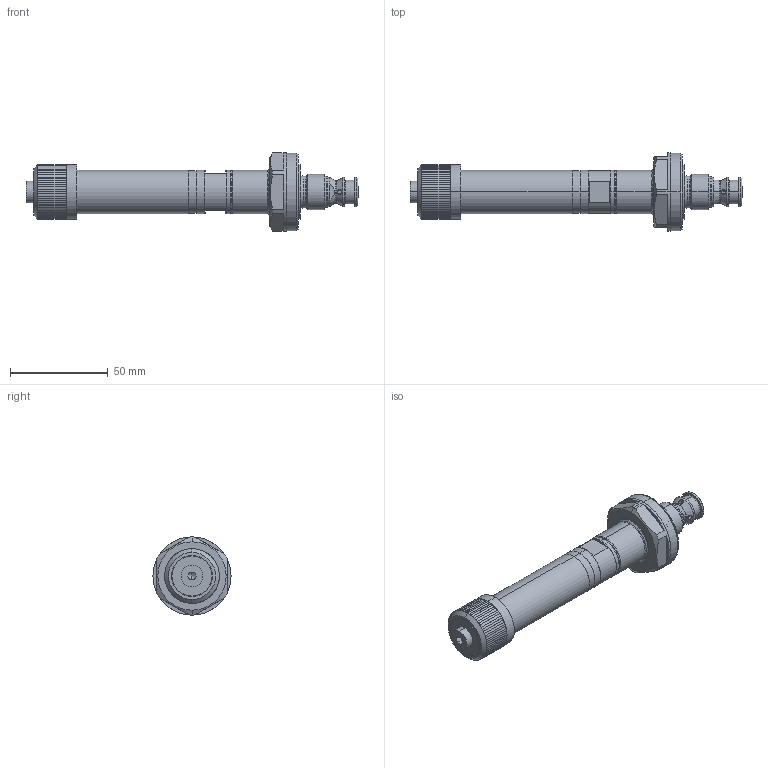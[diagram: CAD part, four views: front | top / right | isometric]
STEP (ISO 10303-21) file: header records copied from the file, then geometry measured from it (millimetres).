
FILE_DESCRIPTION (( 'STEP AP214' ), '1' );
FILE_NAME ('SDZPM18-BA.STEP', '2017-03-01T14:33:09', ( '' ), ( '' ), 'SwSTEP 2.0', 'SolidWorks 2016', '' );
FILE_SCHEMA (( 'AUTOMOTIVE_DESIGN' ));
Length unit declared in the file: millimetre
Products named in the file (1): SDZPM18-BA
Bounding box: 170 x 40 x 40 mm (x, y, z)
Volume: 73829.2 mm3; surface area: 17482.8 mm2
Topology: 1 solids, 1 shells, 490 faces, 1304 edges, 840 vertices
Faces by surface type: plane 276, cylinder 148, cone 36, torus 30
Entity records: 21076 total; most frequent: CARTESIAN_POINT 3563, ORIENTED_EDGE 2604, DIRECTION 2487, EDGE_CURVE 1302, AXIS2_PLACEMENT_3D 872, VERTEX_POINT 840, LINE 743, VECTOR 743
